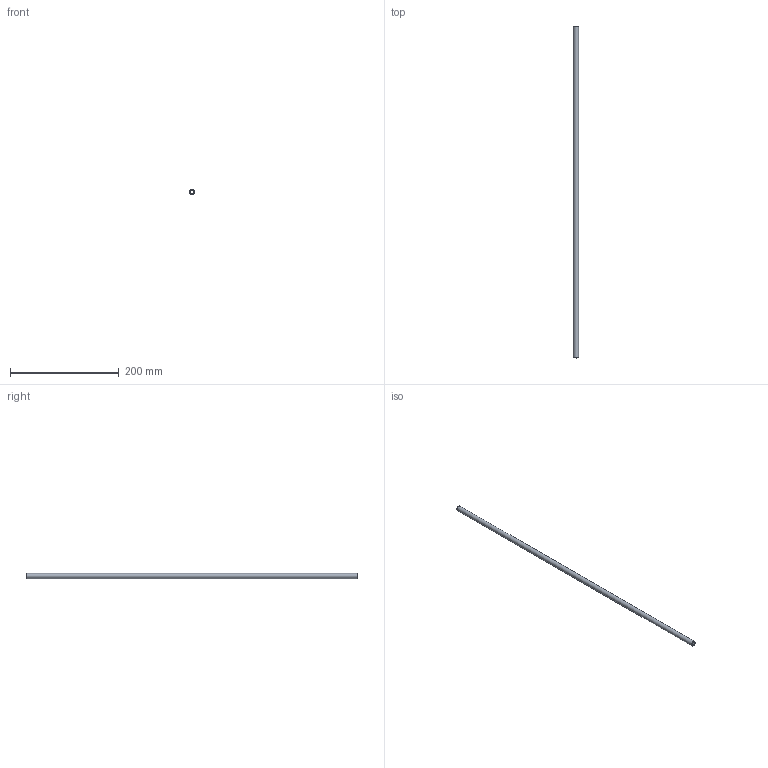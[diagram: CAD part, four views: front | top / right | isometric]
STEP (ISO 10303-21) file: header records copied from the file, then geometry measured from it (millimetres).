
FILE_DESCRIPTION(/* description */ (''),/* implementation_level */ '2;1');
FILE_NAME(/* name */ 'C:/Users/drich/Desktop/375T-24 v1.step',/* time_stamp */ '2019-12-27T17:31:42-06:00',/* author */ (''),/* organization */ (''),/* preprocessor_version */ 'ST-DEVELOPER v18',/* originating_system */ 'Autodesk Translation Framework v8.12.0.6',/* authorisation */ '');
FILE_SCHEMA (('AUTOMOTIVE_DESIGN { 1 0 10303 214 3 1 1 }'));
Length unit declared in the file: inch
Products named in the file (1): 375T-24
Bounding box: 9.41 x 609.6 x 9.41 mm (x, y, z)
Volume: 19332.6 mm3; surface area: 31347.4 mm2
Topology: 1 solids, 1 shells, 6 faces, 14 edges, 10 vertices
Faces by surface type: cone 2, cylinder 2, plane 2
Full cylindrical faces by diameter (mm): 6.934 x1, 9.406 x1
Entity records: 230 total; most frequent: DIRECTION 38, CARTESIAN_POINT 31, ORIENTED_EDGE 28, AXIS2_PLACEMENT_3D 17, EDGE_CURVE 14, CIRCLE 10, VERTEX_POINT 10, EDGE_LOOP 8
